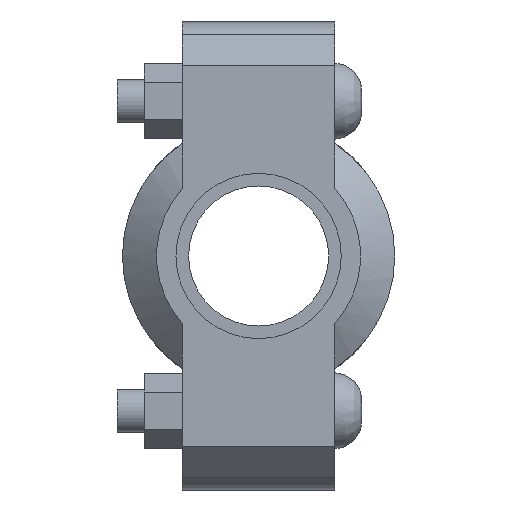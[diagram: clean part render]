
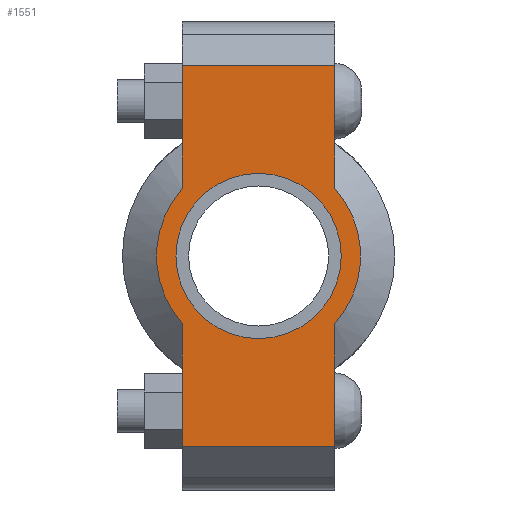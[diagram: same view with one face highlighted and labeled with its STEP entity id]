
A CAD part, left-side view. The second image highlights one B-rep face of the part: STEP entity #1551.
In plain terms, the highlighted planar face has unit normal (-1, 0, 0) as drawn and (0, 0, 1) by its records, which use the part's own axes.
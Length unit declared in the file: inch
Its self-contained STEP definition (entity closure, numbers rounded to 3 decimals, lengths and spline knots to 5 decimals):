
#162=LINE('',#2665,#257);
#177=LINE('',#2724,#272);
#185=LINE('',#2754,#280);
#187=LINE('',#2757,#282);
#188=LINE('',#2762,#283);
#189=LINE('',#2763,#284);
#257=VECTOR('',#2151,0.3937);
#272=VECTOR('',#2186,0.3937);
#280=VECTOR('',#2206,0.3937);
#282=VECTOR('',#2210,0.3937);
#283=VECTOR('',#2215,0.3937);
#284=VECTOR('',#2216,0.3937);
#344=FACE_BOUND('',#503,.T.);
#404=FACE_OUTER_BOUND('',#502,.T.);
#502=EDGE_LOOP('',(#1246,#1247,#1248,#1249,#1250,#1251,#1252,#1253));
#503=EDGE_LOOP('',(#1254));
#608=CIRCLE('',#1814,1.172);
#609=CIRCLE('',#1815,1.172);
#610=CIRCLE('',#1816,0.95);
#717=VERTEX_POINT('',#2662);
#718=VERTEX_POINT('',#2664);
#739=VERTEX_POINT('',#2719);
#740=VERTEX_POINT('',#2723);
#749=VERTEX_POINT('',#2749);
#750=VERTEX_POINT('',#2753);
#751=VERTEX_POINT('',#2759);
#752=VERTEX_POINT('',#2761);
#753=VERTEX_POINT('',#2765);
#887=EDGE_CURVE('',#718,#717,#162,.T.);
#912=EDGE_CURVE('',#740,#739,#177,.T.);
#925=EDGE_CURVE('',#750,#749,#185,.T.);
#927=EDGE_CURVE('',#750,#717,#187,.T.);
#928=EDGE_CURVE('',#749,#751,#608,.T.);
#929=EDGE_CURVE('',#751,#752,#188,.T.);
#930=EDGE_CURVE('',#740,#752,#189,.T.);
#931=EDGE_CURVE('',#739,#718,#609,.T.);
#932=EDGE_CURVE('',#753,#753,#610,.T.);
#1246=ORIENTED_EDGE('',*,*,#927,.F.);
#1247=ORIENTED_EDGE('',*,*,#925,.T.);
#1248=ORIENTED_EDGE('',*,*,#928,.T.);
#1249=ORIENTED_EDGE('',*,*,#929,.T.);
#1250=ORIENTED_EDGE('',*,*,#930,.F.);
#1251=ORIENTED_EDGE('',*,*,#912,.T.);
#1252=ORIENTED_EDGE('',*,*,#931,.T.);
#1253=ORIENTED_EDGE('',*,*,#887,.T.);
#1254=ORIENTED_EDGE('',*,*,#932,.T.);
#1403=PLANE('',#1813);
#1551=ADVANCED_FACE('',(#404,#344),#1403,.T.);
#1813=AXIS2_PLACEMENT_3D('',#2758,#2211,#2212);
#1814=AXIS2_PLACEMENT_3D('',#2760,#2213,#2214);
#1815=AXIS2_PLACEMENT_3D('',#2764,#2217,#2218);
#1816=AXIS2_PLACEMENT_3D('',#2766,#2219,#2220);
#2151=DIRECTION('',(1.,0.,0.));
#2186=DIRECTION('',(1.,0.,0.));
#2206=DIRECTION('',(-1.,0.,0.));
#2210=DIRECTION('',(0.,-1.,0.));
#2211=DIRECTION('center_axis',(0.,0.,1.));
#2212=DIRECTION('ref_axis',(-1.,0.,0.));
#2213=DIRECTION('center_axis',(0.,0.,1.));
#2214=DIRECTION('ref_axis',(1.,0.,0.));
#2215=DIRECTION('',(-1.,0.,0.));
#2216=DIRECTION('',(0.,1.,0.));
#2217=DIRECTION('center_axis',(0.,0.,1.));
#2218=DIRECTION('ref_axis',(1.,0.,0.));
#2219=DIRECTION('center_axis',(0.,0.,-1.));
#2220=DIRECTION('ref_axis',(1.,0.,0.));
#2662=CARTESIAN_POINT('',(2.19,-0.875,0.94));
#2664=CARTESIAN_POINT('',(0.77972,-0.875,0.94));
#2665=CARTESIAN_POINT('',(-2.69,-0.875,0.94));
#2719=CARTESIAN_POINT('',(-0.77972,-0.875,0.94));
#2723=CARTESIAN_POINT('',(-2.19,-0.875,0.94));
#2724=CARTESIAN_POINT('',(-2.69,-0.875,0.94));
#2749=CARTESIAN_POINT('',(0.77972,0.875,0.94));
#2753=CARTESIAN_POINT('',(2.19,0.875,0.94));
#2754=CARTESIAN_POINT('',(2.69,0.875,0.94));
#2757=CARTESIAN_POINT('',(2.19,-0.4375,0.94));
#2758=CARTESIAN_POINT('Origin',(0.,0.,
0.94));
#2759=CARTESIAN_POINT('',(-0.77972,0.875,0.94));
#2760=CARTESIAN_POINT('Origin',(0.,0.,0.94));
#2761=CARTESIAN_POINT('',(-2.19,0.875,0.94));
#2762=CARTESIAN_POINT('',(2.69,0.875,0.94));
#2763=CARTESIAN_POINT('',(-2.19,0.4375,0.94));
#2764=CARTESIAN_POINT('Origin',(0.,0.,0.94));
#2765=CARTESIAN_POINT('',(-0.95,0.,0.94));
#2766=CARTESIAN_POINT('Origin',(0.,0.,0.94));
